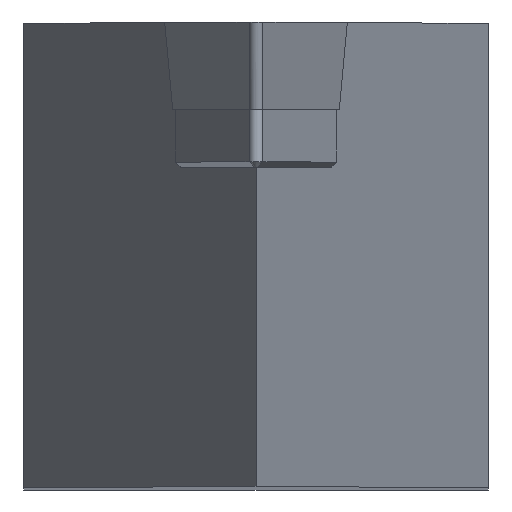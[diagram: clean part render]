
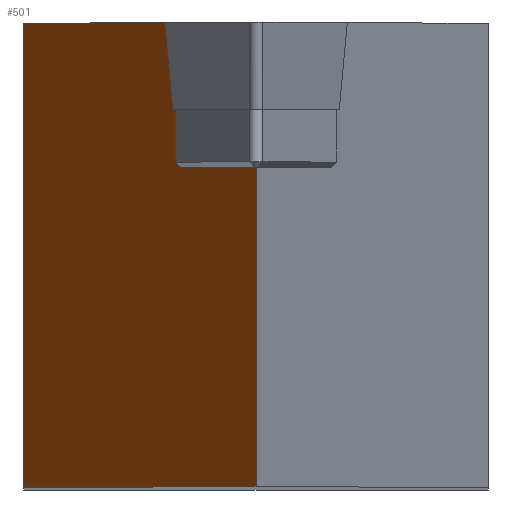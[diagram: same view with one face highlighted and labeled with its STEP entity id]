
A CAD part, top view. The second image highlights one B-rep face of the part: STEP entity #501.
In plain terms, the highlighted planar face has unit normal (-0.954, 0, 0.301).
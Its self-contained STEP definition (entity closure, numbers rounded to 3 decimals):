
#2 = EDGE_CURVE ( 'NONE', #808, #461, #1409, .T. ) ;
#13 = VERTEX_POINT ( 'NONE', #136 ) ;
#15 = VERTEX_POINT ( 'NONE', #790 ) ;
#28 = EDGE_CURVE ( 'NONE', #461, #555, #940, .T. ) ;
#30 = CARTESIAN_POINT ( 'NONE',  ( -0.187, 7.94, -2.992 ) ) ;
#33 = CARTESIAN_POINT ( 'NONE',  ( -15.491, -12.7, -51.533 ) ) ;
#34 = CARTESIAN_POINT ( 'NONE',  ( -12.7, 12.7, -42.679 ) ) ;
#88 = EDGE_LOOP ( 'NONE', ( #1397, #700, #747, #560, #677, #559, #1535, #899 ) ) ;
#99 = DIRECTION ( 'NONE',  ( 0., 1., 0. ) ) ;
#136 = CARTESIAN_POINT ( 'NONE',  ( -4.138, 7.94, -15.524 ) ) ;
#147 = LINE ( 'NONE', #784, #1161 ) ;
#167 = PLANE ( 'NONE',  #1383 ) ;
#205 = VECTOR ( 'NONE', #274, 1000. ) ;
#243 = EDGE_CURVE ( 'NONE', #15, #1572, #980, .T. ) ;
#274 = DIRECTION ( 'NONE',  ( -0.301, 0., -0.954 ) ) ;
#282 = DIRECTION ( 'NONE',  ( -0.301, 0., -0.954 ) ) ;
#289 = CARTESIAN_POINT ( 'NONE',  ( -12.7, 12.7, -42.679 ) ) ;
#356 = VECTOR ( 'NONE', #717, 1000. ) ;
#428 = VECTOR ( 'NONE', #504, 1000. ) ;
#461 = VERTEX_POINT ( 'NONE', #289 ) ;
#501 = ADVANCED_FACE ( 'NONE', ( #1646 ), #167, .F. ) ;
#504 = DIRECTION ( 'NONE',  ( -0.301, 0., -0.954 ) ) ;
#555 = VERTEX_POINT ( 'NONE', #966 ) ;
#559 = ORIENTED_EDGE ( 'NONE', *, *, #1584, .T. ) ;
#560 = ORIENTED_EDGE ( 'NONE', *, *, #243, .T. ) ;
#570 = LINE ( 'NONE', #589, #356 ) ;
#589 = CARTESIAN_POINT ( 'NONE',  ( 0., -12.7, -2.4 ) ) ;
#632 = CARTESIAN_POINT ( 'NONE',  ( -15.491, -12.7, -51.533 ) ) ;
#643 = DIRECTION ( 'NONE',  ( 0., -1., 0. ) ) ;
#677 = ORIENTED_EDGE ( 'NONE', *, *, #1525, .F. ) ;
#700 = ORIENTED_EDGE ( 'NONE', *, *, #1306, .F. ) ;
#717 = DIRECTION ( 'NONE',  ( 0., 1., 0. ) ) ;
#747 = ORIENTED_EDGE ( 'NONE', *, *, #763, .T. ) ;
#763 = EDGE_CURVE ( 'NONE', #768, #15, #570, .T. ) ;
#768 = VERTEX_POINT ( 'NONE', #1624 ) ;
#784 = CARTESIAN_POINT ( 'NONE',  ( -4.138, 4.76, -15.524 ) ) ;
#790 = CARTESIAN_POINT ( 'NONE',  ( 0., 4.76, -2.4 ) ) ;
#808 = VERTEX_POINT ( 'NONE', #1375 ) ;
#899 = ORIENTED_EDGE ( 'NONE', *, *, #2, .T. ) ;
#907 = CARTESIAN_POINT ( 'NONE',  ( -4.138, 4.76, -15.524 ) ) ;
#922 = DIRECTION ( 'NONE',  ( -0.301, 0., -0.954 ) ) ;
#928 = CARTESIAN_POINT ( 'NONE',  ( -7.528, 4.76, -26.275 ) ) ;
#934 = VERTEX_POINT ( 'NONE', #1316 ) ;
#940 = LINE ( 'NONE', #34, #1531 ) ;
#966 = CARTESIAN_POINT ( 'NONE',  ( -12.7, -12.7, -42.679 ) ) ;
#980 = LINE ( 'NONE', #928, #1339 ) ;
#1042 = LINE ( 'NONE', #30, #205 ) ;
#1068 = VECTOR ( 'NONE', #922, 1000. ) ;
#1161 = VECTOR ( 'NONE', #1307, 1000. ) ;
#1232 = CARTESIAN_POINT ( 'NONE',  ( -4.459, 22.5, -16.543 ) ) ;
#1244 = EDGE_CURVE ( 'NONE', #934, #808, #1272, .T. ) ;
#1272 = LINE ( 'NONE', #1232, #1569 ) ;
#1306 = EDGE_CURVE ( 'NONE', #768, #555, #1643, .T. ) ;
#1307 = DIRECTION ( 'NONE',  ( 0., -1., 0. ) ) ;
#1316 = CARTESIAN_POINT ( 'NONE',  ( -4.459, 7.94, -16.543 ) ) ;
#1339 = VECTOR ( 'NONE', #1434, 1000. ) ;
#1375 = CARTESIAN_POINT ( 'NONE',  ( -4.459, 12.7, -16.543 ) ) ;
#1383 = AXIS2_PLACEMENT_3D ( 'NONE', #33, #1444, #282 ) ;
#1397 = ORIENTED_EDGE ( 'NONE', *, *, #28, .T. ) ;
#1409 = LINE ( 'NONE', #1422, #1068 ) ;
#1422 = CARTESIAN_POINT ( 'NONE',  ( -15.491, 12.7, -51.533 ) ) ;
#1434 = DIRECTION ( 'NONE',  ( -0.301, 0., -0.954 ) ) ;
#1444 = DIRECTION ( 'NONE',  ( 0.954, 0., -0.301 ) ) ;
#1525 = EDGE_CURVE ( 'NONE', #13, #1572, #147, .T. ) ;
#1531 = VECTOR ( 'NONE', #643, 1000. ) ;
#1535 = ORIENTED_EDGE ( 'NONE', *, *, #1244, .T. ) ;
#1569 = VECTOR ( 'NONE', #99, 1000. ) ;
#1572 = VERTEX_POINT ( 'NONE', #907 ) ;
#1584 = EDGE_CURVE ( 'NONE', #13, #934, #1042, .T. ) ;
#1624 = CARTESIAN_POINT ( 'NONE',  ( 0., -12.7, -2.4 ) ) ;
#1643 = LINE ( 'NONE', #632, #428 ) ;
#1646 = FACE_OUTER_BOUND ( 'NONE', #88, .T. ) ;
